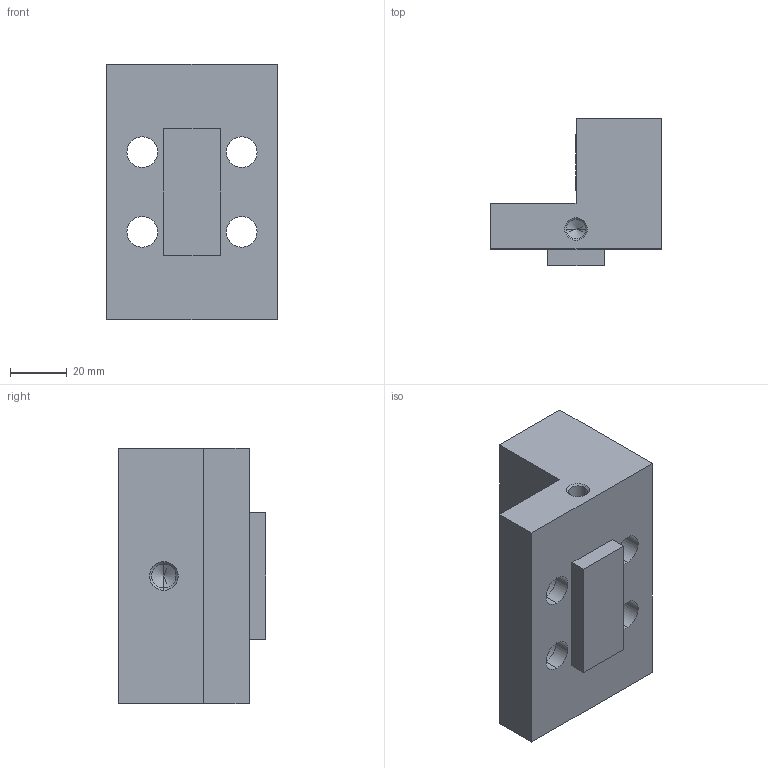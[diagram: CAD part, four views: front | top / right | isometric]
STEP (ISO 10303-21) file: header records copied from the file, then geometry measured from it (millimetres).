
FILE_DESCRIPTION (( 'STEP AP203' ), '1' );
FILE_NAME ('6921274011240.STEP', '2008-12-15T09:13:22', ( ' ' ), ( '' ), 'SwSTEP 2.0', 'SolidWorks 2008', '' );
FILE_SCHEMA (( 'CONFIG_CONTROL_DESIGN' ));
Length unit declared in the file: millimetre
Products named in the file (2): 6921274011240; 6921274011240_Kundenmodell
Assembly tree (1 placements, depth 2):
  6921274011240
    6921274011240_Kundenmodell
Bounding box: 60 x 51.8 x 90 mm (x, y, z)
Volume: 153787 mm3; surface area: 28719.1 mm2
Topology: 1 solids, 1 shells, 45 faces, 106 edges, 66 vertices
Faces by surface type: cylinder 20, plane 17, cone 8
Entity records: 1484 total; most frequent: DIRECTION 244, CARTESIAN_POINT 217, ORIENTED_EDGE 204, EDGE_CURVE 102, AXIS2_PLACEMENT_3D 93, VERTEX_POINT 66, EDGE_LOOP 60, VECTOR 58
